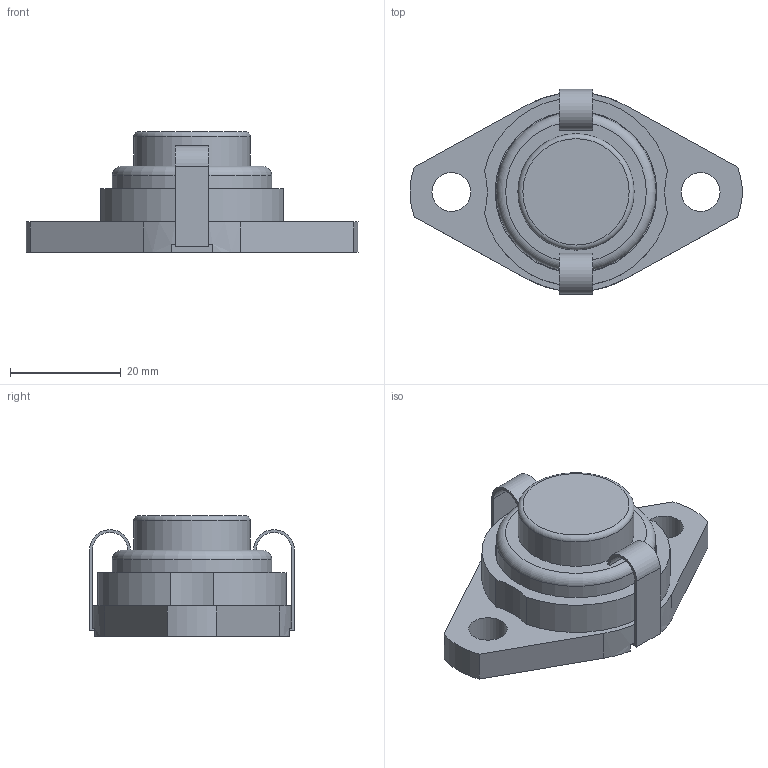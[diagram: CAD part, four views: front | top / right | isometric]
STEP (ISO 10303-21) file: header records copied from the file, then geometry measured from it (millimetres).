
FILE_DESCRIPTION((''),'2;1');
FILE_NAME('\\Ts-tgl068\j-cad-d-base\00.3DCADデータ作成フォルダ\11.エコシリーズ\MUSFL000\MUSFL000E.stp','2014-11-12T09:51:50',('btec_1106_2'),(''),'Autodesk Inventor 2012','Autodesk Inventor 2012','');
FILE_SCHEMA(('AUTOMOTIVE_DESIGN { 1 0 10303 214 1 1 1 1 }'));
Length unit declared in the file: millimetre
Products named in the file (5): MUSFL000C(E); SFL000; U000; 000CPE; 0CLL
Assembly tree (5 placements, depth 2):
  MUSFL000C(E)
    SFL000
    U000
    000CPE
    0CLL  x2
Bounding box: 59.94 x 37 x 21.8 mm (x, y, z)
Volume: 11636.7 mm3; surface area: 10820.9 mm2
Topology: 5 solids, 5 shells, 107 faces, 256 edges, 167 vertices
Faces by surface type: plane 60, cylinder 38, torus 4, cone 3, sphere 2
Full cylindrical faces by diameter (mm): 3.5 x1, 4 x1, 7 x2, 10 x1, 14.8 x1, 17 x1, 20.4 x1, 21 x1, 28.2 x1, 28.8 x1, 29.2 x1
Entity records: 2944 total; most frequent: CARTESIAN_POINT 589, DIRECTION 494, ORIENTED_EDGE 406, EDGE_CURVE 203, AXIS2_PLACEMENT_3D 190, VERTEX_POINT 145, EDGE_LOOP 138, VECTOR 114
